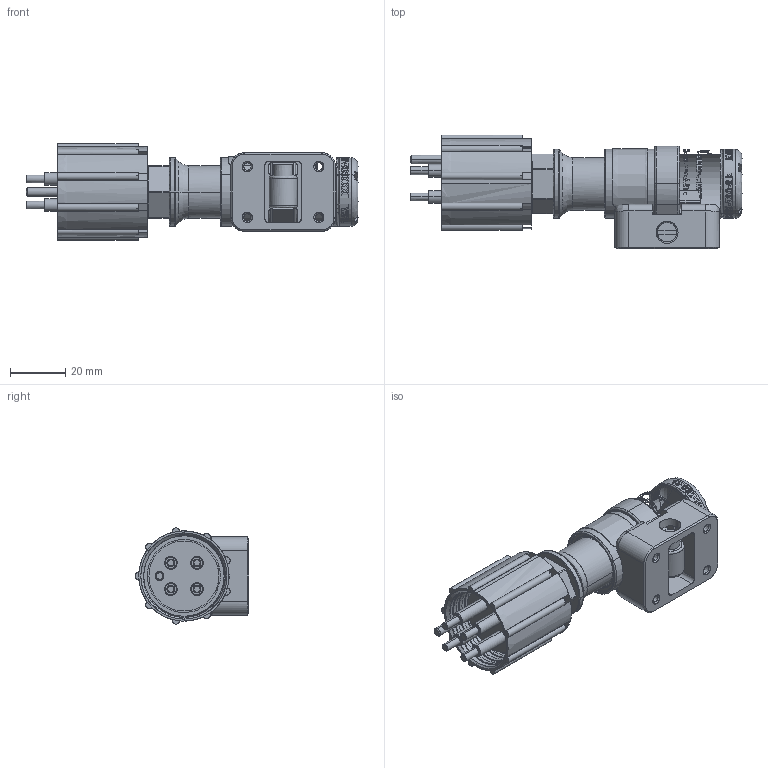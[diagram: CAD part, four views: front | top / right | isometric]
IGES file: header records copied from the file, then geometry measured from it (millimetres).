
Start section: SolidWorks IGES file using analytic representation for surfaces
Global section: file name: S:\3D_Product_Models\Lights\NSL-BH4-0E_11k_20181221a.IGS; native system: SolidWorks 2018; preprocessor: SolidWorks 2018; author: jon.simmons; date: 181221.065018; units: millimetre
Bounding box: 120.62 x 41.37 x 35 mm (x, y, z)
Surface area: 21487.7 mm2 (no closed solid volume)
Topology: 0 solids, 0 shells, 550 faces, 9607 edges, 9380 vertices
Faces by surface type: revolution 298, bspline 252
